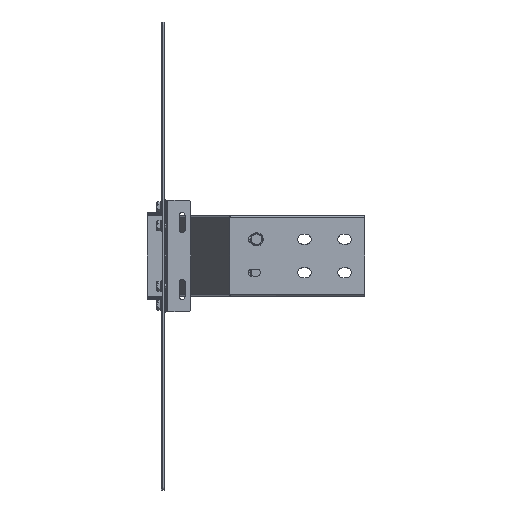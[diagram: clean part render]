
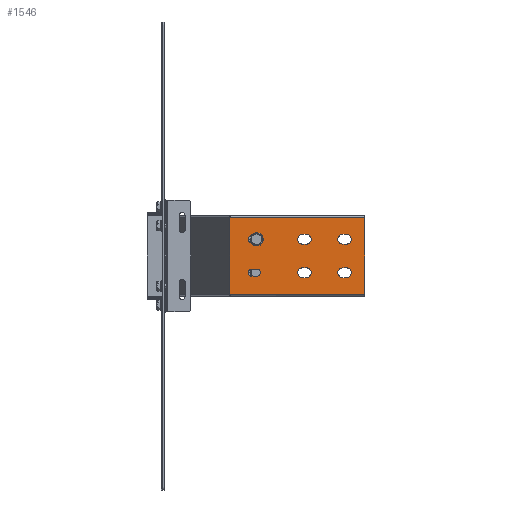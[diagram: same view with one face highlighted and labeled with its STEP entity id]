
A CAD part, front view. The second image highlights one B-rep face of the part: STEP entity #1546.
In plain terms, the highlighted planar face has unit normal (0, -1, 0).
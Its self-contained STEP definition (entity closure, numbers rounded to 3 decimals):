
#1302=AXIS2_PLACEMENT_3D('Circle Axis2P3D',#1300,#1301,$) ;
#1322=AXIS2_PLACEMENT_3D('Plane Axis2P3D',#1319,#1320,#1321) ;
#1360=AXIS2_PLACEMENT_3D('Circle Axis2P3D',#1358,#1359,$) ;
#1378=AXIS2_PLACEMENT_3D('Circle Axis2P3D',#1376,#1377,$) ;
#1394=AXIS2_PLACEMENT_3D('Circle Axis2P3D',#1392,#1393,$) ;
#1412=AXIS2_PLACEMENT_3D('Circle Axis2P3D',#1410,#1411,$) ;
#1428=AXIS2_PLACEMENT_3D('Circle Axis2P3D',#1426,#1427,$) ;
#1455=AXIS2_PLACEMENT_3D('Circle Axis2P3D',#1453,#1454,$) ;
#1469=AXIS2_PLACEMENT_3D('Circle Axis2P3D',#1467,#1468,$) ;
#1480=AXIS2_PLACEMENT_3D('Circle Axis2P3D',#1478,#1479,$) ;
#1496=AXIS2_PLACEMENT_3D('Circle Axis2P3D',#1494,#1495,$) ;
#1514=AXIS2_PLACEMENT_3D('Circle Axis2P3D',#1512,#1513,$) ;
#1530=AXIS2_PLACEMENT_3D('Circle Axis2P3D',#1528,#1529,$) ;
#1266=CARTESIAN_POINT('Vertex',(212.5,-218.,32.5)) ;
#1269=CARTESIAN_POINT('Line Origine',(210.,-218.,32.5)) ;
#1273=CARTESIAN_POINT('Vertex',(207.5,-218.,32.5)) ;
#1300=CARTESIAN_POINT('Axis2P3D Location',(207.5,-218.,25.)) ;
#1304=CARTESIAN_POINT('Vertex',(207.5,-218.,17.5)) ;
#1319=CARTESIAN_POINT('Axis2P3D Location',(300.,-218.,-57.)) ;
#1324=CARTESIAN_POINT('Line Origine',(199.021,-218.,-57.)) ;
#1328=CARTESIAN_POINT('Vertex',(300.,-218.,-57.)) ;
#1330=CARTESIAN_POINT('Vertex',(98.041,-218.,-57.)) ;
#1333=CARTESIAN_POINT('Line Origine',(300.,-218.,0.)) ;
#1337=CARTESIAN_POINT('Vertex',(300.,-218.,57.)) ;
#1340=CARTESIAN_POINT('Line Origine',(199.021,-218.,57.)) ;
#1344=CARTESIAN_POINT('Vertex',(98.041,-218.,57.)) ;
#1347=CARTESIAN_POINT('Line Origine',(98.041,-218.,0.)) ;
#1358=CARTESIAN_POINT('Axis2P3D Location',(212.5,-218.,25.)) ;
#1362=CARTESIAN_POINT('Vertex',(212.5,-218.,17.5)) ;
#1365=CARTESIAN_POINT('Line Origine',(210.,-218.,17.5)) ;
#1376=CARTESIAN_POINT('Axis2P3D Location',(272.5,-218.,25.)) ;
#1380=CARTESIAN_POINT('Vertex',(272.5,-218.,17.5)) ;
#1382=CARTESIAN_POINT('Vertex',(272.5,-218.,32.5)) ;
#1385=CARTESIAN_POINT('Line Origine',(270.,-218.,17.5)) ;
#1389=CARTESIAN_POINT('Vertex',(267.5,-218.,17.5)) ;
#1392=CARTESIAN_POINT('Axis2P3D Location',(267.5,-218.,25.)) ;
#1396=CARTESIAN_POINT('Vertex',(267.5,-218.,32.5)) ;
#1399=CARTESIAN_POINT('Line Origine',(270.,-218.,32.5)) ;
#1410=CARTESIAN_POINT('Axis2P3D Location',(207.5,-218.,-25.)) ;
#1414=CARTESIAN_POINT('Vertex',(207.5,-218.,-17.5)) ;
#1416=CARTESIAN_POINT('Vertex',(207.5,-218.,-32.5)) ;
#1419=CARTESIAN_POINT('Line Origine',(210.,-218.,-17.5)) ;
#1423=CARTESIAN_POINT('Vertex',(212.5,-218.,-17.5)) ;
#1426=CARTESIAN_POINT('Axis2P3D Location',(212.5,-218.,-25.)) ;
#1430=CARTESIAN_POINT('Vertex',(212.5,-218.,-32.5)) ;
#1433=CARTESIAN_POINT('Line Origine',(210.,-218.,-32.5)) ;
#1444=CARTESIAN_POINT('Line Origine',(270.,-218.,-17.5)) ;
#1448=CARTESIAN_POINT('Vertex',(272.5,-218.,-17.5)) ;
#1450=CARTESIAN_POINT('Vertex',(267.5,-218.,-17.5)) ;
#1453=CARTESIAN_POINT('Axis2P3D Location',(272.5,-218.,-25.)) ;
#1457=CARTESIAN_POINT('Vertex',(272.5,-218.,-32.5)) ;
#1460=CARTESIAN_POINT('Line Origine',(270.,-218.,-32.5)) ;
#1464=CARTESIAN_POINT('Vertex',(267.5,-218.,-32.5)) ;
#1467=CARTESIAN_POINT('Axis2P3D Location',(267.5,-218.,-25.)) ;
#1478=CARTESIAN_POINT('Axis2P3D Location',(138.5,-218.,25.)) ;
#1482=CARTESIAN_POINT('Vertex',(138.5,-218.,19.5)) ;
#1484=CARTESIAN_POINT('Vertex',(138.5,-218.,30.5)) ;
#1487=CARTESIAN_POINT('Line Origine',(135.,-218.,19.5)) ;
#1491=CARTESIAN_POINT('Vertex',(131.5,-218.,19.5)) ;
#1494=CARTESIAN_POINT('Axis2P3D Location',(131.5,-218.,25.)) ;
#1498=CARTESIAN_POINT('Vertex',(131.5,-218.,30.5)) ;
#1501=CARTESIAN_POINT('Line Origine',(135.,-218.,30.5)) ;
#1512=CARTESIAN_POINT('Axis2P3D Location',(131.5,-218.,-25.)) ;
#1516=CARTESIAN_POINT('Vertex',(131.5,-218.,-19.5)) ;
#1518=CARTESIAN_POINT('Vertex',(131.5,-218.,-30.5)) ;
#1521=CARTESIAN_POINT('Line Origine',(135.,-218.,-19.5)) ;
#1525=CARTESIAN_POINT('Vertex',(138.5,-218.,-19.5)) ;
#1528=CARTESIAN_POINT('Axis2P3D Location',(138.5,-218.,-25.)) ;
#1532=CARTESIAN_POINT('Vertex',(138.5,-218.,-30.5)) ;
#1535=CARTESIAN_POINT('Line Origine',(135.,-218.,-30.5)) ;
#1270=DIRECTION('Vector Direction',(1.,0.,0.)) ;
#1301=DIRECTION('Axis2P3D Direction',(0.,-1.,0.)) ;
#1320=DIRECTION('Axis2P3D Direction',(0.,-1.,0.)) ;
#1321=DIRECTION('Axis2P3D XDirection',(0.,0.,1.)) ;
#1325=DIRECTION('Vector Direction',(-1.,0.,0.)) ;
#1334=DIRECTION('Vector Direction',(0.,0.,1.)) ;
#1341=DIRECTION('Vector Direction',(-1.,0.,0.)) ;
#1348=DIRECTION('Vector Direction',(0.,0.,1.)) ;
#1359=DIRECTION('Axis2P3D Direction',(0.,-1.,0.)) ;
#1366=DIRECTION('Vector Direction',(-1.,0.,0.)) ;
#1377=DIRECTION('Axis2P3D Direction',(0.,-1.,0.)) ;
#1386=DIRECTION('Vector Direction',(1.,0.,0.)) ;
#1393=DIRECTION('Axis2P3D Direction',(0.,-1.,0.)) ;
#1400=DIRECTION('Vector Direction',(-1.,0.,0.)) ;
#1411=DIRECTION('Axis2P3D Direction',(0.,-1.,0.)) ;
#1420=DIRECTION('Vector Direction',(-1.,0.,0.)) ;
#1427=DIRECTION('Axis2P3D Direction',(0.,-1.,0.)) ;
#1434=DIRECTION('Vector Direction',(1.,0.,0.)) ;
#1445=DIRECTION('Vector Direction',(1.,0.,0.)) ;
#1454=DIRECTION('Axis2P3D Direction',(0.,-1.,0.)) ;
#1461=DIRECTION('Vector Direction',(-1.,0.,0.)) ;
#1468=DIRECTION('Axis2P3D Direction',(0.,-1.,0.)) ;
#1479=DIRECTION('Axis2P3D Direction',(0.,-1.,0.)) ;
#1488=DIRECTION('Vector Direction',(-1.,0.,0.)) ;
#1495=DIRECTION('Axis2P3D Direction',(0.,-1.,0.)) ;
#1502=DIRECTION('Vector Direction',(1.,0.,0.)) ;
#1513=DIRECTION('Axis2P3D Direction',(0.,-1.,0.)) ;
#1522=DIRECTION('Vector Direction',(-1.,0.,0.)) ;
#1529=DIRECTION('Axis2P3D Direction',(0.,-1.,0.)) ;
#1536=DIRECTION('Vector Direction',(1.,0.,0.)) ;
#1271=VECTOR('Line Direction',#1270,1.) ;
#1326=VECTOR('Line Direction',#1325,1.) ;
#1335=VECTOR('Line Direction',#1334,1.) ;
#1342=VECTOR('Line Direction',#1341,1.) ;
#1349=VECTOR('Line Direction',#1348,1.) ;
#1367=VECTOR('Line Direction',#1366,1.) ;
#1387=VECTOR('Line Direction',#1386,1.) ;
#1401=VECTOR('Line Direction',#1400,1.) ;
#1421=VECTOR('Line Direction',#1420,1.) ;
#1435=VECTOR('Line Direction',#1434,1.) ;
#1446=VECTOR('Line Direction',#1445,1.) ;
#1462=VECTOR('Line Direction',#1461,1.) ;
#1489=VECTOR('Line Direction',#1488,1.) ;
#1503=VECTOR('Line Direction',#1502,1.) ;
#1523=VECTOR('Line Direction',#1522,1.) ;
#1537=VECTOR('Line Direction',#1536,1.) ;
#1353=ORIENTED_EDGE('',*,*,#1332,.F.) ;
#1354=ORIENTED_EDGE('',*,*,#1339,.F.) ;
#1355=ORIENTED_EDGE('',*,*,#1346,.T.) ;
#1356=ORIENTED_EDGE('',*,*,#1351,.F.) ;
#1371=ORIENTED_EDGE('',*,*,#1364,.F.) ;
#1372=ORIENTED_EDGE('',*,*,#1369,.F.) ;
#1373=ORIENTED_EDGE('',*,*,#1306,.F.) ;
#1374=ORIENTED_EDGE('',*,*,#1275,.F.) ;
#1405=ORIENTED_EDGE('',*,*,#1384,.F.) ;
#1406=ORIENTED_EDGE('',*,*,#1391,.F.) ;
#1407=ORIENTED_EDGE('',*,*,#1398,.F.) ;
#1408=ORIENTED_EDGE('',*,*,#1403,.F.) ;
#1439=ORIENTED_EDGE('',*,*,#1418,.F.) ;
#1440=ORIENTED_EDGE('',*,*,#1425,.F.) ;
#1441=ORIENTED_EDGE('',*,*,#1432,.F.) ;
#1442=ORIENTED_EDGE('',*,*,#1437,.F.) ;
#1473=ORIENTED_EDGE('',*,*,#1452,.F.) ;
#1474=ORIENTED_EDGE('',*,*,#1459,.F.) ;
#1475=ORIENTED_EDGE('',*,*,#1466,.F.) ;
#1476=ORIENTED_EDGE('',*,*,#1471,.F.) ;
#1507=ORIENTED_EDGE('',*,*,#1486,.F.) ;
#1508=ORIENTED_EDGE('',*,*,#1493,.F.) ;
#1509=ORIENTED_EDGE('',*,*,#1500,.F.) ;
#1510=ORIENTED_EDGE('',*,*,#1505,.F.) ;
#1541=ORIENTED_EDGE('',*,*,#1520,.F.) ;
#1542=ORIENTED_EDGE('',*,*,#1527,.F.) ;
#1543=ORIENTED_EDGE('',*,*,#1534,.F.) ;
#1544=ORIENTED_EDGE('',*,*,#1539,.F.) ;
#1375=FACE_BOUND('',#1370,.T.) ;
#1409=FACE_BOUND('',#1404,.T.) ;
#1443=FACE_BOUND('',#1438,.T.) ;
#1477=FACE_BOUND('',#1472,.T.) ;
#1511=FACE_BOUND('',#1506,.T.) ;
#1545=FACE_BOUND('',#1540,.T.) ;
#1546=ADVANCED_FACE('N',(#1357,#1375,#1409,#1443,#1477,#1511,#1545),#1323,.T.) ;
#1303=CIRCLE('generated circle',#1302,7.5) ;
#1361=CIRCLE('generated circle',#1360,7.5) ;
#1379=CIRCLE('generated circle',#1378,7.5) ;
#1395=CIRCLE('generated circle',#1394,7.5) ;
#1413=CIRCLE('generated circle',#1412,7.5) ;
#1429=CIRCLE('generated circle',#1428,7.5) ;
#1456=CIRCLE('generated circle',#1455,7.5) ;
#1470=CIRCLE('generated circle',#1469,7.5) ;
#1481=CIRCLE('generated circle',#1480,5.5) ;
#1497=CIRCLE('generated circle',#1496,5.5) ;
#1515=CIRCLE('generated circle',#1514,5.5) ;
#1531=CIRCLE('generated circle',#1530,5.5) ;
#1275=EDGE_CURVE('',#1267,#1274,#1272,.F.) ;
#1306=EDGE_CURVE('',#1274,#1305,#1303,.T.) ;
#1332=EDGE_CURVE('',#1329,#1331,#1327,.T.) ;
#1339=EDGE_CURVE('',#1338,#1329,#1336,.F.) ;
#1346=EDGE_CURVE('',#1338,#1345,#1343,.T.) ;
#1351=EDGE_CURVE('',#1331,#1345,#1350,.T.) ;
#1364=EDGE_CURVE('',#1363,#1267,#1361,.T.) ;
#1369=EDGE_CURVE('',#1305,#1363,#1368,.F.) ;
#1384=EDGE_CURVE('',#1381,#1383,#1379,.T.) ;
#1391=EDGE_CURVE('',#1390,#1381,#1388,.T.) ;
#1398=EDGE_CURVE('',#1397,#1390,#1395,.T.) ;
#1403=EDGE_CURVE('',#1383,#1397,#1402,.T.) ;
#1418=EDGE_CURVE('',#1415,#1417,#1413,.T.) ;
#1425=EDGE_CURVE('',#1424,#1415,#1422,.T.) ;
#1432=EDGE_CURVE('',#1431,#1424,#1429,.T.) ;
#1437=EDGE_CURVE('',#1417,#1431,#1436,.T.) ;
#1452=EDGE_CURVE('',#1449,#1451,#1447,.F.) ;
#1459=EDGE_CURVE('',#1458,#1449,#1456,.T.) ;
#1466=EDGE_CURVE('',#1465,#1458,#1463,.F.) ;
#1471=EDGE_CURVE('',#1451,#1465,#1470,.T.) ;
#1486=EDGE_CURVE('',#1483,#1485,#1481,.T.) ;
#1493=EDGE_CURVE('',#1492,#1483,#1490,.F.) ;
#1500=EDGE_CURVE('',#1499,#1492,#1497,.T.) ;
#1505=EDGE_CURVE('',#1485,#1499,#1504,.F.) ;
#1520=EDGE_CURVE('',#1517,#1519,#1515,.T.) ;
#1527=EDGE_CURVE('',#1526,#1517,#1524,.T.) ;
#1534=EDGE_CURVE('',#1533,#1526,#1531,.T.) ;
#1539=EDGE_CURVE('',#1519,#1533,#1538,.T.) ;
#1352=EDGE_LOOP('',(#1353,#1354,#1355,#1356)) ;
#1370=EDGE_LOOP('',(#1371,#1372,#1373,#1374)) ;
#1404=EDGE_LOOP('',(#1405,#1406,#1407,#1408)) ;
#1438=EDGE_LOOP('',(#1439,#1440,#1441,#1442)) ;
#1472=EDGE_LOOP('',(#1473,#1474,#1475,#1476)) ;
#1506=EDGE_LOOP('',(#1507,#1508,#1509,#1510)) ;
#1540=EDGE_LOOP('',(#1541,#1542,#1543,#1544)) ;
#1357=FACE_OUTER_BOUND('',#1352,.T.) ;
#1272=LINE('Line',#1269,#1271) ;
#1327=LINE('Line',#1324,#1326) ;
#1336=LINE('Line',#1333,#1335) ;
#1343=LINE('Line',#1340,#1342) ;
#1350=LINE('Line',#1347,#1349) ;
#1368=LINE('Line',#1365,#1367) ;
#1388=LINE('Line',#1385,#1387) ;
#1402=LINE('Line',#1399,#1401) ;
#1422=LINE('Line',#1419,#1421) ;
#1436=LINE('Line',#1433,#1435) ;
#1447=LINE('Line',#1444,#1446) ;
#1463=LINE('Line',#1460,#1462) ;
#1490=LINE('Line',#1487,#1489) ;
#1504=LINE('Line',#1501,#1503) ;
#1524=LINE('Line',#1521,#1523) ;
#1538=LINE('Line',#1535,#1537) ;
#1323=PLANE('',#1322) ;
#1267=VERTEX_POINT('',#1266) ;
#1274=VERTEX_POINT('',#1273) ;
#1305=VERTEX_POINT('',#1304) ;
#1329=VERTEX_POINT('',#1328) ;
#1331=VERTEX_POINT('',#1330) ;
#1338=VERTEX_POINT('',#1337) ;
#1345=VERTEX_POINT('',#1344) ;
#1363=VERTEX_POINT('',#1362) ;
#1381=VERTEX_POINT('',#1380) ;
#1383=VERTEX_POINT('',#1382) ;
#1390=VERTEX_POINT('',#1389) ;
#1397=VERTEX_POINT('',#1396) ;
#1415=VERTEX_POINT('',#1414) ;
#1417=VERTEX_POINT('',#1416) ;
#1424=VERTEX_POINT('',#1423) ;
#1431=VERTEX_POINT('',#1430) ;
#1449=VERTEX_POINT('',#1448) ;
#1451=VERTEX_POINT('',#1450) ;
#1458=VERTEX_POINT('',#1457) ;
#1465=VERTEX_POINT('',#1464) ;
#1483=VERTEX_POINT('',#1482) ;
#1485=VERTEX_POINT('',#1484) ;
#1492=VERTEX_POINT('',#1491) ;
#1499=VERTEX_POINT('',#1498) ;
#1517=VERTEX_POINT('',#1516) ;
#1519=VERTEX_POINT('',#1518) ;
#1526=VERTEX_POINT('',#1525) ;
#1533=VERTEX_POINT('',#1532) ;
